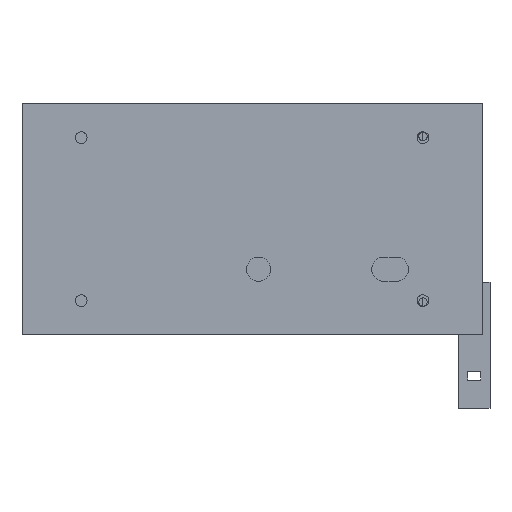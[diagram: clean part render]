
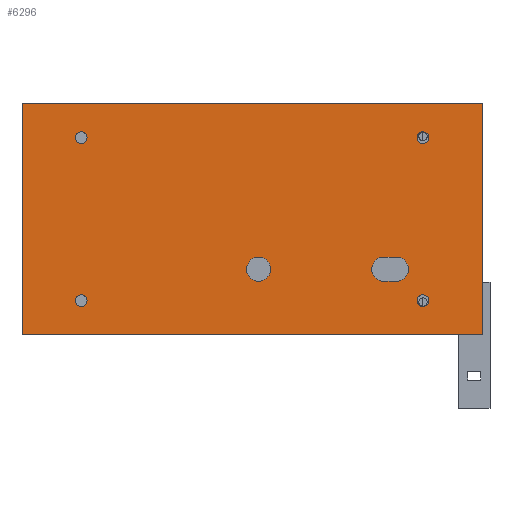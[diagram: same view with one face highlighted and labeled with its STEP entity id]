
A CAD part, front view. The second image highlights one B-rep face of the part: STEP entity #6296.
In plain terms, the highlighted planar face has unit normal (0, -1, 0).
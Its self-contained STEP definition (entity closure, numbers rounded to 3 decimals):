
#6260 = EDGE_CURVE('',#6261,#6263,#6265,.T.);
#6261 = VERTEX_POINT('',#6262);
#6262 = CARTESIAN_POINT('',(0.,-14.5,0.));
#6263 = VERTEX_POINT('',#6264);
#6264 = CARTESIAN_POINT('',(0.,-14.5,88.));
#6265 = LINE('',#6266,#6267);
#6266 = CARTESIAN_POINT('',(0.,-14.5,0.));
#6267 = VECTOR('',#6268,1.);
#6268 = DIRECTION('',(0.,0.,1.));
#6296 = ADVANCED_FACE('',(#6297,#6322,#6333,#6344,#6355,#6366,#6402),
  #6413,.F.);
#6297 = FACE_BOUND('',#6298,.F.);
#6298 = EDGE_LOOP('',(#6299,#6307,#6308,#6316));
#6299 = ORIENTED_EDGE('',*,*,#6300,.F.);
#6300 = EDGE_CURVE('',#6261,#6301,#6303,.T.);
#6301 = VERTEX_POINT('',#6302);
#6302 = CARTESIAN_POINT('',(175.,-14.5,0.));
#6303 = LINE('',#6304,#6305);
#6304 = CARTESIAN_POINT('',(0.,-14.5,0.));
#6305 = VECTOR('',#6306,1.);
#6306 = DIRECTION('',(1.,0.,-0.));
#6307 = ORIENTED_EDGE('',*,*,#6260,.T.);
#6308 = ORIENTED_EDGE('',*,*,#6309,.T.);
#6309 = EDGE_CURVE('',#6263,#6310,#6312,.T.);
#6310 = VERTEX_POINT('',#6311);
#6311 = CARTESIAN_POINT('',(175.,-14.5,88.));
#6312 = LINE('',#6313,#6314);
#6313 = CARTESIAN_POINT('',(0.,-14.5,88.));
#6314 = VECTOR('',#6315,1.);
#6315 = DIRECTION('',(1.,0.,-0.));
#6316 = ORIENTED_EDGE('',*,*,#6317,.F.);
#6317 = EDGE_CURVE('',#6301,#6310,#6318,.T.);
#6318 = LINE('',#6319,#6320);
#6319 = CARTESIAN_POINT('',(175.,-14.5,0.));
#6320 = VECTOR('',#6321,1.);
#6321 = DIRECTION('',(0.,0.,1.));
#6322 = FACE_BOUND('',#6323,.F.);
#6323 = EDGE_LOOP('',(#6324));
#6324 = ORIENTED_EDGE('',*,*,#6325,.F.);
#6325 = EDGE_CURVE('',#6326,#6326,#6328,.T.);
#6326 = VERTEX_POINT('',#6327);
#6327 = CARTESIAN_POINT('',(22.5,-14.5,15.25));
#6328 = CIRCLE('',#6329,2.25);
#6329 = AXIS2_PLACEMENT_3D('',#6330,#6331,#6332);
#6330 = CARTESIAN_POINT('',(22.5,-14.5,13.));
#6331 = DIRECTION('',(0.,1.,0.));
#6332 = DIRECTION('',(0.,-0.,1.));
#6333 = FACE_BOUND('',#6334,.F.);
#6334 = EDGE_LOOP('',(#6335));
#6335 = ORIENTED_EDGE('',*,*,#6336,.F.);
#6336 = EDGE_CURVE('',#6337,#6337,#6339,.T.);
#6337 = VERTEX_POINT('',#6338);
#6338 = CARTESIAN_POINT('',(22.5,-14.5,77.25));
#6339 = CIRCLE('',#6340,2.25);
#6340 = AXIS2_PLACEMENT_3D('',#6341,#6342,#6343);
#6341 = CARTESIAN_POINT('',(22.5,-14.5,75.));
#6342 = DIRECTION('',(0.,1.,0.));
#6343 = DIRECTION('',(0.,-0.,1.));
#6344 = FACE_BOUND('',#6345,.F.);
#6345 = EDGE_LOOP('',(#6346));
#6346 = ORIENTED_EDGE('',*,*,#6347,.F.);
#6347 = EDGE_CURVE('',#6348,#6348,#6350,.T.);
#6348 = VERTEX_POINT('',#6349);
#6349 = CARTESIAN_POINT('',(90.,-14.5,29.6));
#6350 = CIRCLE('',#6351,4.6);
#6351 = AXIS2_PLACEMENT_3D('',#6352,#6353,#6354);
#6352 = CARTESIAN_POINT('',(90.,-14.5,25.));
#6353 = DIRECTION('',(0.,1.,0.));
#6354 = DIRECTION('',(0.,-0.,1.));
#6355 = FACE_BOUND('',#6356,.F.);
#6356 = EDGE_LOOP('',(#6357));
#6357 = ORIENTED_EDGE('',*,*,#6358,.F.);
#6358 = EDGE_CURVE('',#6359,#6359,#6361,.T.);
#6359 = VERTEX_POINT('',#6360);
#6360 = CARTESIAN_POINT('',(152.5,-14.5,15.25));
#6361 = CIRCLE('',#6362,2.25);
#6362 = AXIS2_PLACEMENT_3D('',#6363,#6364,#6365);
#6363 = CARTESIAN_POINT('',(152.5,-14.5,13.));
#6364 = DIRECTION('',(0.,1.,0.));
#6365 = DIRECTION('',(0.,-0.,1.));
#6366 = FACE_BOUND('',#6367,.F.);
#6367 = EDGE_LOOP('',(#6368,#6379,#6387,#6396));
#6368 = ORIENTED_EDGE('',*,*,#6369,.F.);
#6369 = EDGE_CURVE('',#6370,#6372,#6374,.T.);
#6370 = VERTEX_POINT('',#6371);
#6371 = CARTESIAN_POINT('',(137.6,-14.5,20.4));
#6372 = VERTEX_POINT('',#6373);
#6373 = CARTESIAN_POINT('',(137.6,-14.5,29.6));
#6374 = CIRCLE('',#6375,4.6);
#6375 = AXIS2_PLACEMENT_3D('',#6376,#6377,#6378);
#6376 = CARTESIAN_POINT('',(137.6,-14.5,25.));
#6377 = DIRECTION('',(0.,1.,0.));
#6378 = DIRECTION('',(0.,-0.,1.));
#6379 = ORIENTED_EDGE('',*,*,#6380,.T.);
#6380 = EDGE_CURVE('',#6370,#6381,#6383,.T.);
#6381 = VERTEX_POINT('',#6382);
#6382 = CARTESIAN_POINT('',(142.4,-14.5,20.4));
#6383 = LINE('',#6384,#6385);
#6384 = CARTESIAN_POINT('',(68.8,-14.5,20.4));
#6385 = VECTOR('',#6386,1.);
#6386 = DIRECTION('',(1.,0.,-0.));
#6387 = ORIENTED_EDGE('',*,*,#6388,.F.);
#6388 = EDGE_CURVE('',#6389,#6381,#6391,.T.);
#6389 = VERTEX_POINT('',#6390);
#6390 = CARTESIAN_POINT('',(142.4,-14.5,29.6));
#6391 = CIRCLE('',#6392,4.6);
#6392 = AXIS2_PLACEMENT_3D('',#6393,#6394,#6395);
#6393 = CARTESIAN_POINT('',(142.4,-14.5,25.));
#6394 = DIRECTION('',(0.,1.,0.));
#6395 = DIRECTION('',(0.,-0.,1.));
#6396 = ORIENTED_EDGE('',*,*,#6397,.F.);
#6397 = EDGE_CURVE('',#6372,#6389,#6398,.T.);
#6398 = LINE('',#6399,#6400);
#6399 = CARTESIAN_POINT('',(68.8,-14.5,29.6));
#6400 = VECTOR('',#6401,1.);
#6401 = DIRECTION('',(1.,0.,-0.));
#6402 = FACE_BOUND('',#6403,.F.);
#6403 = EDGE_LOOP('',(#6404));
#6404 = ORIENTED_EDGE('',*,*,#6405,.F.);
#6405 = EDGE_CURVE('',#6406,#6406,#6408,.T.);
#6406 = VERTEX_POINT('',#6407);
#6407 = CARTESIAN_POINT('',(152.5,-14.5,77.25));
#6408 = CIRCLE('',#6409,2.25);
#6409 = AXIS2_PLACEMENT_3D('',#6410,#6411,#6412);
#6410 = CARTESIAN_POINT('',(152.5,-14.5,75.));
#6411 = DIRECTION('',(0.,1.,0.));
#6412 = DIRECTION('',(0.,-0.,1.));
#6413 = PLANE('',#6414);
#6414 = AXIS2_PLACEMENT_3D('',#6415,#6416,#6417);
#6415 = CARTESIAN_POINT('',(0.,-14.5,0.));
#6416 = DIRECTION('',(-0.,1.,0.));
#6417 = DIRECTION('',(0.,0.,1.));
